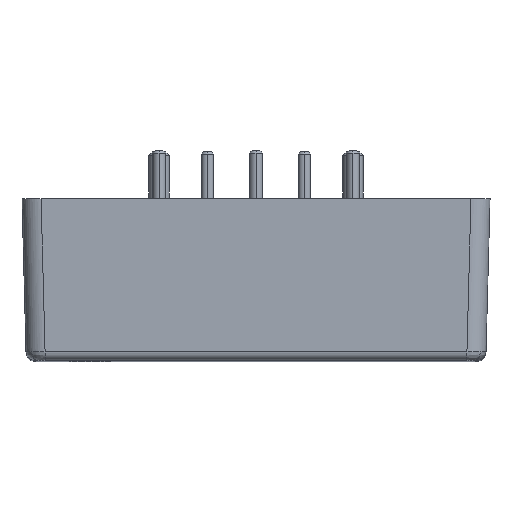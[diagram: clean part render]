
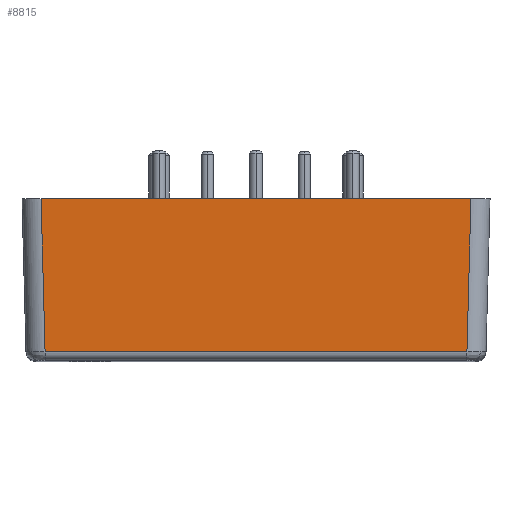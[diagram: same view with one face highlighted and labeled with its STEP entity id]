
A CAD part, top view. The second image highlights one B-rep face of the part: STEP entity #8815.
In plain terms, the highlighted planar face has unit normal (0, -0.026, 1).
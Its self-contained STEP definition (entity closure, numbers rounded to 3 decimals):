
#214 = VECTOR ( 'NONE', #10656, 1000. ) ;
#404 = EDGE_CURVE ( 'NONE', #6720, #2339, #14152, .T. ) ;
#1026 = LINE ( 'NONE', #7988, #10867 ) ;
#1633 = LINE ( 'NONE', #6144, #214 ) ;
#2339 = VERTEX_POINT ( 'NONE', #6141 ) ;
#3411 = EDGE_CURVE ( 'NONE', #2339, #4986, #1633, .T. ) ;
#3477 = AXIS2_PLACEMENT_3D ( 'NONE', #13725, #3566, #8094 ) ;
#3511 = ORIENTED_EDGE ( 'NONE', *, *, #404, .T. ) ;
#3566 = DIRECTION ( 'NONE',  ( 0., -0.026, 1. ) ) ;
#4333 = DIRECTION ( 'NONE',  ( 1., 0., 0. ) ) ;
#4986 = VERTEX_POINT ( 'NONE', #5368 ) ;
#5041 = ORIENTED_EDGE ( 'NONE', *, *, #12246, .T. ) ;
#5368 = CARTESIAN_POINT ( 'NONE',  ( 16.901, 0., 28.95 ) ) ;
#5505 = EDGE_LOOP ( 'NONE', ( #3511, #6642, #8731, #5041 ) ) ;
#5825 = VERTEX_POINT ( 'NONE', #10665 ) ;
#5851 = VECTOR ( 'NONE', #6016, 1000. ) ;
#6016 = DIRECTION ( 'NONE',  ( 1., 0., 0. ) ) ;
#6141 = CARTESIAN_POINT ( 'NONE',  ( 16.586, -12.018, 28.635 ) ) ;
#6144 = CARTESIAN_POINT ( 'NONE',  ( 16.876, -0.923, 28.926 ) ) ;
#6642 = ORIENTED_EDGE ( 'NONE', *, *, #3411, .T. ) ;
#6720 = VERTEX_POINT ( 'NONE', #6916 ) ;
#6916 = CARTESIAN_POINT ( 'NONE',  ( -16.586, -12.018, 28.635 ) ) ;
#7113 = FACE_OUTER_BOUND ( 'NONE', #5505, .T. ) ;
#7819 = CARTESIAN_POINT ( 'NONE',  ( -18.4, 0., 28.95 ) ) ;
#7988 = CARTESIAN_POINT ( 'NONE',  ( -16.902, 0.039, 28.951 ) ) ;
#8065 = DIRECTION ( 'NONE',  ( 0.026, -0.999, -0.026 ) ) ;
#8094 = DIRECTION ( 'NONE',  ( -1., 0., 0. ) ) ;
#8409 = EDGE_CURVE ( 'NONE', #5825, #4986, #11061, .T. ) ;
#8731 = ORIENTED_EDGE ( 'NONE', *, *, #8409, .F. ) ;
#8815 = ADVANCED_FACE ( 'NONE', ( #7113 ), #9054, .T. ) ;
#9054 = PLANE ( 'NONE',  #3477 ) ;
#10656 = DIRECTION ( 'NONE',  ( 0.026, 0.999, 0.026 ) ) ;
#10665 = CARTESIAN_POINT ( 'NONE',  ( -16.901, 0., 28.95 ) ) ;
#10867 = VECTOR ( 'NONE', #8065, 1000. ) ;
#11061 = LINE ( 'NONE', #7819, #13809 ) ;
#11922 = CARTESIAN_POINT ( 'NONE',  ( -18.4, -12.018, 28.635 ) ) ;
#12246 = EDGE_CURVE ( 'NONE', #5825, #6720, #1026, .T. ) ;
#13725 = CARTESIAN_POINT ( 'NONE',  ( -18.4, 0., 28.95 ) ) ;
#13809 = VECTOR ( 'NONE', #4333, 1000. ) ;
#14152 = LINE ( 'NONE', #11922, #5851 ) ;
